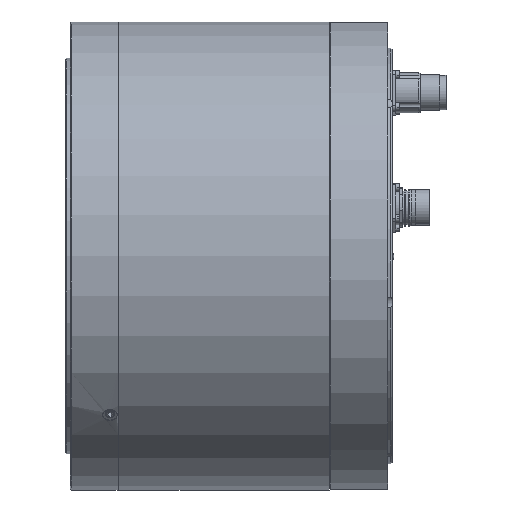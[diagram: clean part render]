
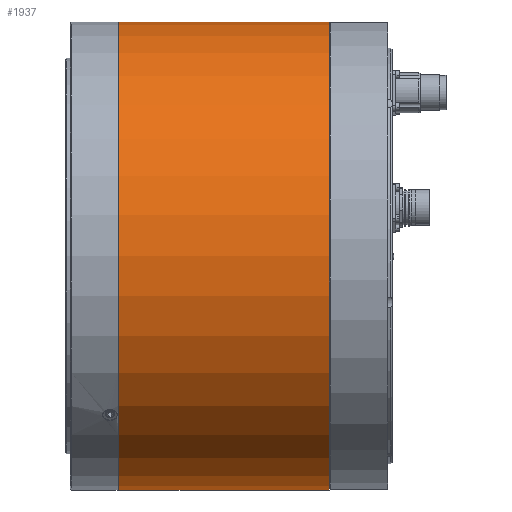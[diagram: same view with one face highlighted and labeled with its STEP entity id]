
A CAD part, top view. The second image highlights one B-rep face of the part: STEP entity #1937.
In plain terms, the highlighted cylindrical face has radius 145 mm (diameter 290 mm), a full revolution.
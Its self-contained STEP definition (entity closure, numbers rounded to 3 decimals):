
#1937 = ADVANCED_FACE( '', ( #4036, #4037 ), #4038, .T. );
#4036 = FACE_OUTER_BOUND( '', #6688, .T. );
#4037 = FACE_OUTER_BOUND( '', #6689, .T. );
#4038 = CYLINDRICAL_SURFACE( '', #6690, 145. );
#6688 = EDGE_LOOP( '', ( #10642 ) );
#6689 = EDGE_LOOP( '', ( #10643 ) );
#6690 = AXIS2_PLACEMENT_3D( '', #10644, #10645, #10646 );
#10642 = ORIENTED_EDGE( '', *, *, #12790, .T. );
#10643 = ORIENTED_EDGE( '', *, *, #12801, .F. );
#10644 = CARTESIAN_POINT( '', ( 0., -60., 0. ) );
#10645 = DIRECTION( '', ( 0., 1., 0. ) );
#10646 = DIRECTION( '', ( 0., 0., -1. ) );
#12790 = EDGE_CURVE( '', #15871, #15871, #15872, .T. );
#12801 = EDGE_CURVE( '', #15887, #15887, #15888, .T. );
#15871 = VERTEX_POINT( '', #19605 );
#15872 = CIRCLE( '', #19606, 145. );
#15887 = VERTEX_POINT( '', #19621 );
#15888 = CIRCLE( '', #19622, 145. );
#19605 = CARTESIAN_POINT( '', ( 0., 130.5, -145. ) );
#19606 = AXIS2_PLACEMENT_3D( '', #22099, #22100, #22101 );
#19621 = CARTESIAN_POINT( '', ( 0., 0., -145. ) );
#19622 = AXIS2_PLACEMENT_3D( '', #22117, #22118, #22119 );
#22099 = CARTESIAN_POINT( '', ( 0., 130.5, 0. ) );
#22100 = DIRECTION( '', ( 0., -1., 0. ) );
#22101 = DIRECTION( '', ( 0., 0., -1. ) );
#22117 = CARTESIAN_POINT( '', ( 0., 0., 0. ) );
#22118 = DIRECTION( '', ( 0., -1., 0. ) );
#22119 = DIRECTION( '', ( 0., 0., -1. ) );
